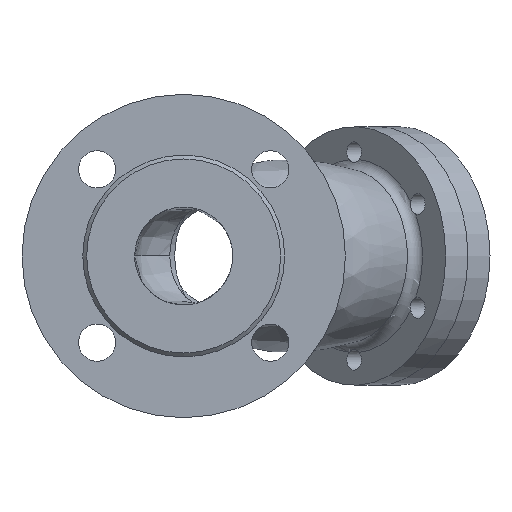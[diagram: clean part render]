
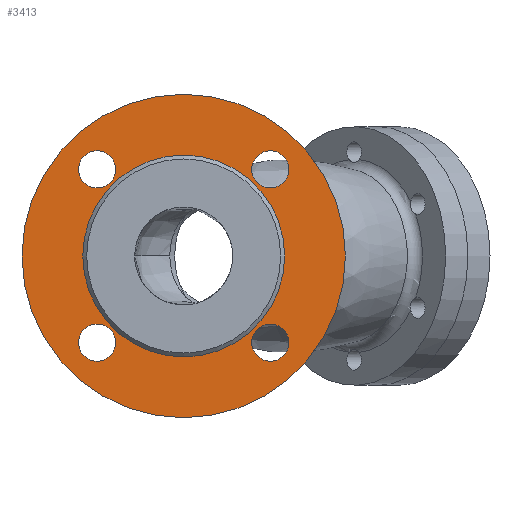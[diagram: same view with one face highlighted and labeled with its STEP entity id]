
A CAD part, left-side view. The second image highlights one B-rep face of the part: STEP entity #3413.
In plain terms, the highlighted planar face has unit normal (-1, 0, 0).
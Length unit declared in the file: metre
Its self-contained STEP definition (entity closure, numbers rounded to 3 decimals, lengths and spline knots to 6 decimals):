
#50=FACE_BOUND('',#1053,.T.);
#51=FACE_BOUND('',#1054,.T.);
#52=FACE_BOUND('',#1055,.T.);
#53=FACE_BOUND('',#1056,.T.);
#54=FACE_BOUND('',#1057,.T.);
#558=PLANE('',#3769);
#846=FACE_OUTER_BOUND('',#1052,.T.);
#1052=EDGE_LOOP('',(#2714));
#1053=EDGE_LOOP('',(#2715));
#1054=EDGE_LOOP('',(#2716));
#1055=EDGE_LOOP('',(#2717));
#1056=EDGE_LOOP('',(#2718));
#1057=EDGE_LOOP('',(#2719));
#1261=CIRCLE('',#3658,0.0095);
#1263=CIRCLE('',#3661,0.0095);
#1265=CIRCLE('',#3664,0.0095);
#1267=CIRCLE('',#3667,0.0095);
#1336=CIRCLE('',#3768,0.0515);
#1337=CIRCLE('',#3770,0.0825);
#1512=VERTEX_POINT('',#6601);
#1514=VERTEX_POINT('',#6607);
#1516=VERTEX_POINT('',#6613);
#1518=VERTEX_POINT('',#6619);
#1600=VERTEX_POINT('',#10403);
#1601=VERTEX_POINT('',#10407);
#1877=EDGE_CURVE('',#1512,#1512,#1261,.T.);
#1880=EDGE_CURVE('',#1514,#1514,#1263,.T.);
#1883=EDGE_CURVE('',#1516,#1516,#1265,.T.);
#1886=EDGE_CURVE('',#1518,#1518,#1267,.T.);
#2018=EDGE_CURVE('',#1600,#1600,#1336,.T.);
#2020=EDGE_CURVE('',#1601,#1601,#1337,.T.);
#2714=ORIENTED_EDGE('',*,*,#2020,.T.);
#2715=ORIENTED_EDGE('',*,*,#1877,.F.);
#2716=ORIENTED_EDGE('',*,*,#1886,.F.);
#2717=ORIENTED_EDGE('',*,*,#1883,.F.);
#2718=ORIENTED_EDGE('',*,*,#1880,.F.);
#2719=ORIENTED_EDGE('',*,*,#2018,.F.);
#3413=ADVANCED_FACE('',(#846,#50,#51,#52,#53,#54),#558,.F.);
#3658=AXIS2_PLACEMENT_3D('',#6603,#4117,#4118);
#3661=AXIS2_PLACEMENT_3D('',#6609,#4124,#4125);
#3664=AXIS2_PLACEMENT_3D('',#6615,#4131,#4132);
#3667=AXIS2_PLACEMENT_3D('',#6621,#4138,#4139);
#3768=AXIS2_PLACEMENT_3D('',#10404,#4363,#4364);
#3769=AXIS2_PLACEMENT_3D('',#10406,#4366,#4367);
#3770=AXIS2_PLACEMENT_3D('',#10408,#4368,#4369);
#4117=DIRECTION('center_axis',(-1.,0.,0.));
#4118=DIRECTION('ref_axis',(0.,0.,1.));
#4124=DIRECTION('center_axis',(-1.,0.,0.));
#4125=DIRECTION('ref_axis',(0.,0.,1.));
#4131=DIRECTION('center_axis',(-1.,0.,0.));
#4132=DIRECTION('ref_axis',(0.,0.,1.));
#4138=DIRECTION('center_axis',(-1.,0.,0.));
#4139=DIRECTION('ref_axis',(0.,0.,1.));
#4363=DIRECTION('center_axis',(-1.,0.,0.));
#4364=DIRECTION('ref_axis',(0.,0.,1.));
#4366=DIRECTION('center_axis',(1.,0.,0.));
#4367=DIRECTION('ref_axis',(0.,1.,0.));
#4368=DIRECTION('center_axis',(-1.,0.,0.));
#4369=DIRECTION('ref_axis',(0.,0.,1.));
#6601=CARTESIAN_POINT('',(-0.113,-0.044194,-0.053694));
#6603=CARTESIAN_POINT('Origin',(-0.113,-0.044194,-0.044194));
#6607=CARTESIAN_POINT('',(-0.113,0.044194,0.034694));
#6609=CARTESIAN_POINT('Origin',(-0.113,0.044194,0.044194));
#6613=CARTESIAN_POINT('',(-0.113,-0.044194,0.034694));
#6615=CARTESIAN_POINT('Origin',(-0.113,-0.044194,0.044194));
#6619=CARTESIAN_POINT('',(-0.113,0.044194,-0.053694));
#6621=CARTESIAN_POINT('Origin',(-0.113,0.044194,-0.044194));
#10403=CARTESIAN_POINT('',(-0.113,0.,-0.0515));
#10404=CARTESIAN_POINT('Origin',(-0.113,0.,0.));
#10406=CARTESIAN_POINT('Origin',(-0.113,0.0515,0.));
#10407=CARTESIAN_POINT('',(-0.113,0.,-0.0825));
#10408=CARTESIAN_POINT('Origin',(-0.113,0.,0.));
